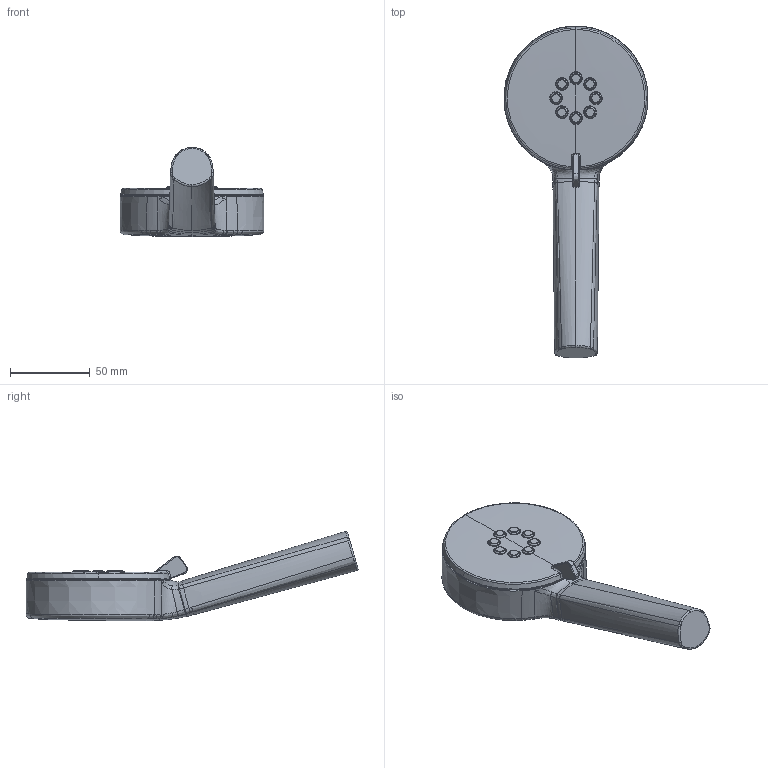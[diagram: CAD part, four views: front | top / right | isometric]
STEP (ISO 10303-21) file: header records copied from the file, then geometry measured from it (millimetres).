
FILE_DESCRIPTION (( 'STEP AP203' ), '1' );
FILE_NAME ('242603(2025).STEP', '2024-12-03T12:14:25', ( '' ), ( '' ), 'SwSTEP 2.0', 'SolidWorks 2024', '' );
FILE_SCHEMA (( 'CONFIG_CONTROL_DESIGN' ));
Length unit declared in the file: millimetre
Products named in the file (1): 242603(2025)
Bounding box: 90.15 x 207.85 x 55.88 mm (x, y, z)
Volume: 254856.5 mm3; surface area: 38722.7 mm2
Topology: 1 solids, 1 shells, 254 faces, 594 edges, 348 vertices
Faces by surface type: bspline 221, cylinder 14, plane 13, cone 6
Entity records: 23889 total; most frequent: CARTESIAN_POINT 19809, ORIENTED_EDGE 1184, EDGE_CURVE 592, B_SPLINE_CURVE_WITH_KNOTS 388, VERTEX_POINT 348, DIRECTION 300, EDGE_LOOP 262, ADVANCED_FACE 254
